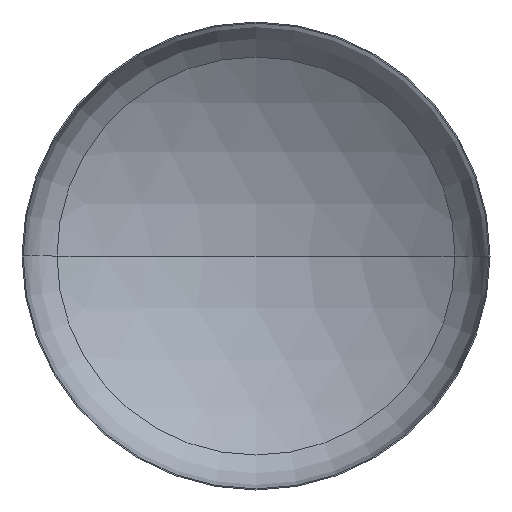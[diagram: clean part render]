
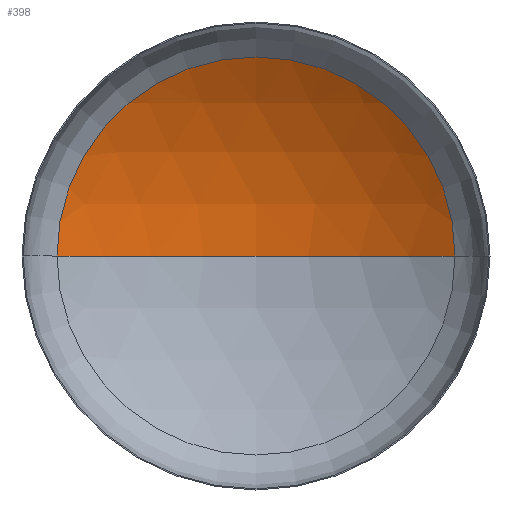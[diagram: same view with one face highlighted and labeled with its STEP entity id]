
A CAD part, front view. The second image highlights one B-rep face of the part: STEP entity #398.
In plain terms, the highlighted spherical face has radius 1760 mm.
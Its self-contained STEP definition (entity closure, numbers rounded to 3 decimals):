
#8 = EDGE_LOOP ( 'NONE', ( #85, #89, #50 ) ) ;
#13 = VERTEX_POINT ( 'NONE', #235 ) ;
#21 = VERTEX_POINT ( 'NONE', #278 ) ;
#42 = VERTEX_POINT ( 'NONE', #349 ) ;
#50 = ORIENTED_EDGE ( 'NONE', *, *, #255, .T. ) ;
#85 = ORIENTED_EDGE ( 'NONE', *, *, #271, .F. ) ;
#89 = ORIENTED_EDGE ( 'NONE', *, *, #258, .T. ) ;
#101 = DIRECTION ( 'NONE',  ( -1., 0., 0. ) ) ;
#121 = FACE_OUTER_BOUND ( 'NONE', #8, .T. ) ;
#125 = AXIS2_PLACEMENT_3D ( 'NONE', #156, #158, #380 ) ;
#141 = AXIS2_PLACEMENT_3D ( 'NONE', #257, #256, #223 ) ;
#148 = AXIS2_PLACEMENT_3D ( 'NONE', #190, #242, #240 ) ;
#156 = CARTESIAN_POINT ( 'NONE',  ( 0., -1182.653, 0. ) ) ;
#158 = DIRECTION ( 'NONE',  ( 0., 0., 1. ) ) ;
#190 = CARTESIAN_POINT ( 'NONE',  ( 0., 307.959, 0. ) ) ;
#214 = CARTESIAN_POINT ( 'NONE',  ( 0., -1182.653, 0. ) ) ;
#223 = DIRECTION ( 'NONE',  ( -1., 0., 0. ) ) ;
#235 = CARTESIAN_POINT ( 'NONE',  ( -935.775, 307.959, 0. ) ) ;
#240 = DIRECTION ( 'NONE',  ( 1., 0., 0. ) ) ;
#242 = DIRECTION ( 'NONE',  ( 0., -1., 0. ) ) ;
#247 = CIRCLE ( 'NONE', #141, 1760. ) ;
#248 = DIRECTION ( 'NONE',  ( 0., 0., -1. ) ) ;
#255 = EDGE_CURVE ( 'NONE', #21, #13, #308, .T. ) ;
#256 = DIRECTION ( 'NONE',  ( 0., 0., -1. ) ) ;
#257 = CARTESIAN_POINT ( 'NONE',  ( 0., -1182.653, 0. ) ) ;
#258 = EDGE_CURVE ( 'NONE', #42, #21, #247, .T. ) ;
#271 = EDGE_CURVE ( 'NONE', #42, #13, #367, .T. ) ;
#278 = CARTESIAN_POINT ( 'NONE',  ( 935.775, 307.959, 0. ) ) ;
#308 = CIRCLE ( 'NONE', #148, 935.775 ) ;
#349 = CARTESIAN_POINT ( 'NONE',  ( 0., 577.347, 0. ) ) ;
#367 = CIRCLE ( 'NONE', #125, 1760. ) ;
#379 = AXIS2_PLACEMENT_3D ( 'NONE', #214, #248, #101 ) ;
#380 = DIRECTION ( 'NONE',  ( 1., 0., 0. ) ) ;
#386 = SPHERICAL_SURFACE ( 'NONE', #379, 1760. ) ;
#398 = ADVANCED_FACE ( 'NONE', ( #121 ), #386, .F. ) ;
